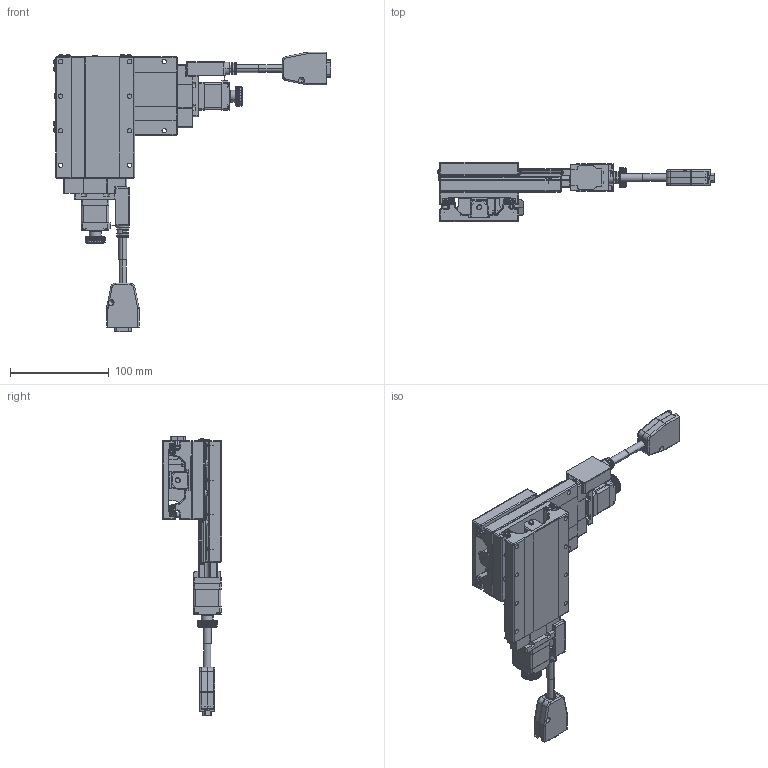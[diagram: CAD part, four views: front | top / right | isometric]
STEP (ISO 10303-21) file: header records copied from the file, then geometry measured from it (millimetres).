
FILE_DESCRIPTION (( 'STEP AP203' ), '1' );
FILE_NAME ('CYS8050-S_defeature.STEP', '2022-11-16T02:21:14', ( '' ), ( '' ), 'SwSTEP 2.0', 'SolidWorks 2019', '' );
FILE_SCHEMA (( 'CONFIG_CONTROL_DESIGN' ));
Length unit declared in the file: millimetre
Products named in the file (4): Group3^CYS8050-S_defeature_GMT; Group1^CYS8050-S_defeature_GMT; CYS8050-S_defeature; Group2^CYS8050-S_defeature_GMT
Assembly tree (3 placements, depth 2):
  CYS8050-S_defeature
    Group1^CYS8050-S_defeature_GMT
    Group2^CYS8050-S_defeature_GMT
    Group3^CYS8050-S_defeature_GMT
Bounding box: 281.2 x 60 x 283.29 mm (x, y, z)
Volume: 472205.2 mm3; surface area: 170218.2 mm2
Topology: 5 solids, 5 shells, 5045 faces, 13474 edges, 8532 vertices
Faces by surface type: plane 2701, cylinder 1264, torus 404, cone 300, bspline 296, sphere 80
Entity records: 173458 total; most frequent: CARTESIAN_POINT 50101, ORIENTED_EDGE 26756, DIRECTION 24514, EDGE_CURVE 13378, AXIS2_PLACEMENT_3D 8683, VERTEX_POINT 8532, LINE 7148, VECTOR 7148
